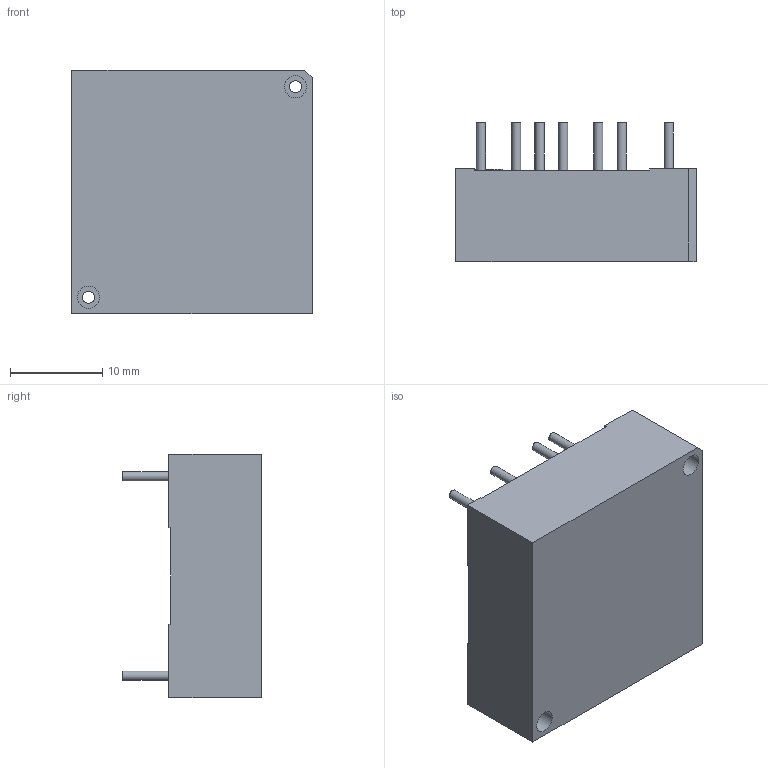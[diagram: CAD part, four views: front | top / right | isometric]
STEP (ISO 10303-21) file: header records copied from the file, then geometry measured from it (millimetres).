
FILE_DESCRIPTION(/* description */ (''),/* implementation_level */ '2;1');
FILE_NAME(/* name */ '',/* author */ (''),/* organization */ (''),/* preprocessor_version */ 'ST-DEVELOPER v18.1',/* originating_system */ '',/* authorisation */ '');
FILE_SCHEMA (('AUTOMOTIVE_DESIGN { 1 0 10303 214 3 1 1 }'));
Length unit declared in the file: inch
Products named in the file (1): JETDi30_case_pins
Bounding box: 26 x 15 x 26.4 mm (x, y, z)
Volume: 6528.3 mm3; surface area: 2665.9 mm2
Topology: 1 solids, 1 shells, 63 faces, 150 edges, 100 vertices
Faces by surface type: plane 44, cylinder 19
Full cylindrical faces by diameter (mm): 1 x7, 1.3 x2, 2.4 x4
Entity records: 1873 total; most frequent: DIRECTION 316, CARTESIAN_POINT 314, ORIENTED_EDGE 300, EDGE_CURVE 150, LINE 112, VECTOR 112, AXIS2_PLACEMENT_3D 102, VERTEX_POINT 100
